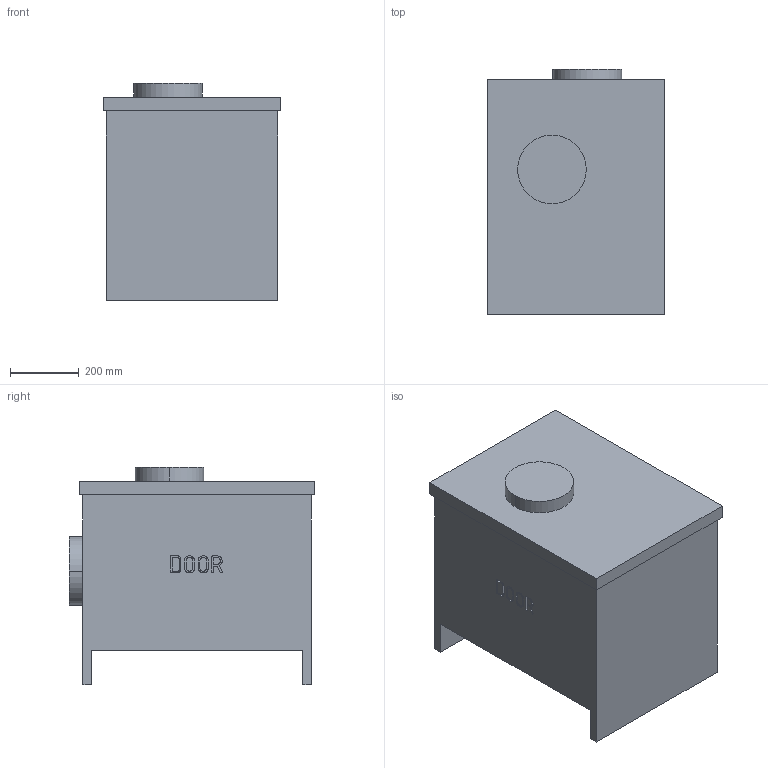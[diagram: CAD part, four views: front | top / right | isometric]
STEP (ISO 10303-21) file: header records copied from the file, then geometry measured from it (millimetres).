
FILE_DESCRIPTION(('STEP AP214'),'1');
FILE_NAME('Soundbox 180_200.stp','2019-11-26T10:16:41',(' '),(' '),'Spatial InterOp 3D',' ',' ');
FILE_SCHEMA(('AUTOMOTIVE_DESIGN { 1 0 10303 214 1 1 1 1 }'));
Length unit declared in the file: metre
Products named in the file (1): Solid1
Bounding box: 518 x 715 x 632 mm (x, y, z)
Volume: 168872726.3 mm3; surface area: 2121701.8 mm2
Topology: 1 solids, 1 shells, 87 faces, 222 edges, 148 vertices
Faces by surface type: plane 50, extrusion 33, cylinder 4
Entity records: 2958 total; most frequent: CARTESIAN_POINT 939, ORIENTED_EDGE 444, DIRECTION 307, EDGE_CURVE 222, VECTOR 181, VERTEX_POINT 148, LINE 148, B_SPLINE_CURVE_WITH_KNOTS 99
